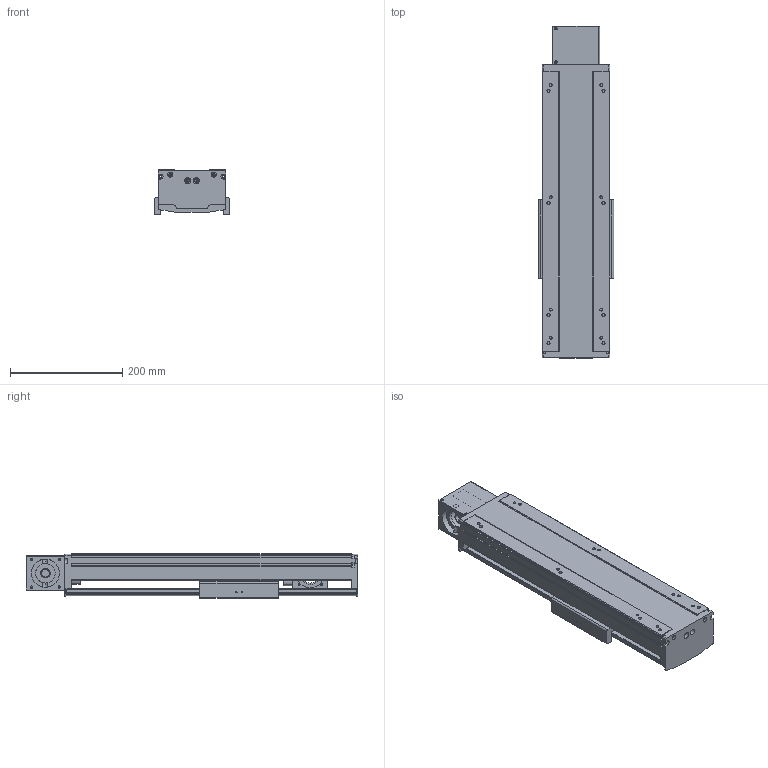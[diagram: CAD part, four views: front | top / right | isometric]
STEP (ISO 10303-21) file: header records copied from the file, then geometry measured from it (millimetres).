
FILE_DESCRIPTION(/* description */ (''),/* implementation_level */ '2;1');
FILE_NAME(/* name */ 'TKB120-FL-200_asm1_stp.stp',/* time_stamp */ '2016-06-28T15:14:22+08:00',/* author */ (''),/* organization */ (''),/* preprocessor_version */ 'ST-DEVELOPER v15',/* originating_system */ 'SIEMENS PLM Software NX 8.5',/* authorisation */ '');
FILE_SCHEMA (('AUTOMOTIVE_DESIGN { 1 0 10303 214 3 1 1 1 }'));
Length unit declared in the file: millimetre
Products named in the file (3): 200-2; 200-1; TKB120-FL-200_asm1_stp
Assembly tree (2 placements, depth 2):
  TKB120-FL-200_asm1_stp
    200-1
    200-2
Bounding box: 134 x 591 x 80 mm (x, y, z)
Volume: 1881830.9 mm3; surface area: 688755.5 mm2
Topology: 2 solids, 3 shells, 736 faces, 2073 edges, 1355 vertices
Faces by surface type: cylinder 353, plane 341, cone 42
Full cylindrical faces by diameter (mm): 2.5 x4, 3.3 x20, 4.2 x4, 4.5 x24, 5 x18, 5.5 x8, 6.6 x6, 6.8 x4, 7.5 x4, 8 x12, 9 x6, 9.75 x16, 10.5 x4, 11 x2, 12 x4, 14 x2, 17 x2, 35 x2, 40 x3, 50 x2, 52 x1
Entity records: 23539 total; most frequent: CARTESIAN_POINT 4857, DIRECTION 3958, ORIENTED_EDGE 3594, EDGE_CURVE 1797, AXIS2_PLACEMENT_3D 1492, VERTEX_POINT 1311, EDGE_LOOP 1066, LINE 974
